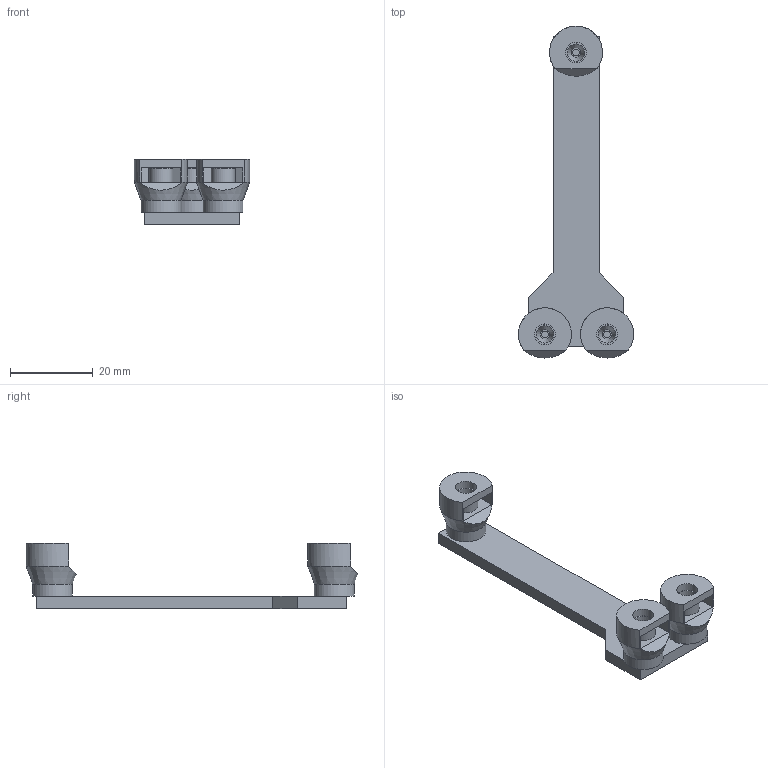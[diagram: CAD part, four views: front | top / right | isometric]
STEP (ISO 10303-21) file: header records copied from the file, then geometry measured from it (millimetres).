
FILE_DESCRIPTION(/* description */ (''),/* implementation_level */ '2;1');
FILE_NAME(/* name */ 'V:\Flow\Inventor\Mischertests\Weaving - 1,6mm.stp',/* time_stamp */ '2019-12-20T09:26:06+01:00',/* author */ ('JN'),/* organization */ (''),/* preprocessor_version */ 'ST-DEVELOPER v17',/* originating_system */ 'Autodesk Inventor 2018',/* authorisation */ '');
FILE_SCHEMA (('AUTOMOTIVE_DESIGN { 1 0 10303 214 3 1 1 }'));
Length unit declared in the file: millimetre
Products named in the file (3): SAR; 10-32 Mutter einschieben; Flow Reaktor 16 - Test Mischzonen 2
Assembly tree (4 placements, depth 2):
  SAR
    10-32 Mutter einschieben  x3
    Flow Reaktor 16 - Test Mischzonen 2
Bounding box: 27.8 x 80.1 x 15.7 mm (x, y, z)
Volume: 5444.5 mm3; surface area: 6338.3 mm2
Topology: 7 solids, 7 shells, 272 faces, 768 edges, 482 vertices
Faces by surface type: plane 242, cylinder 24, cone 6
Full cylindrical faces by diameter (mm): 1.6 x3, 2.4 x3, 5 x9, 5.8 x3, 9.6 x3
Entity records: 7435 total; most frequent: ORIENTED_EDGE 1320, CARTESIAN_POINT 1307, DIRECTION 1159, EDGE_CURVE 660, LINE 623, VECTOR 623, VERTEX_POINT 410, AXIS2_PLACEMENT_3D 268
